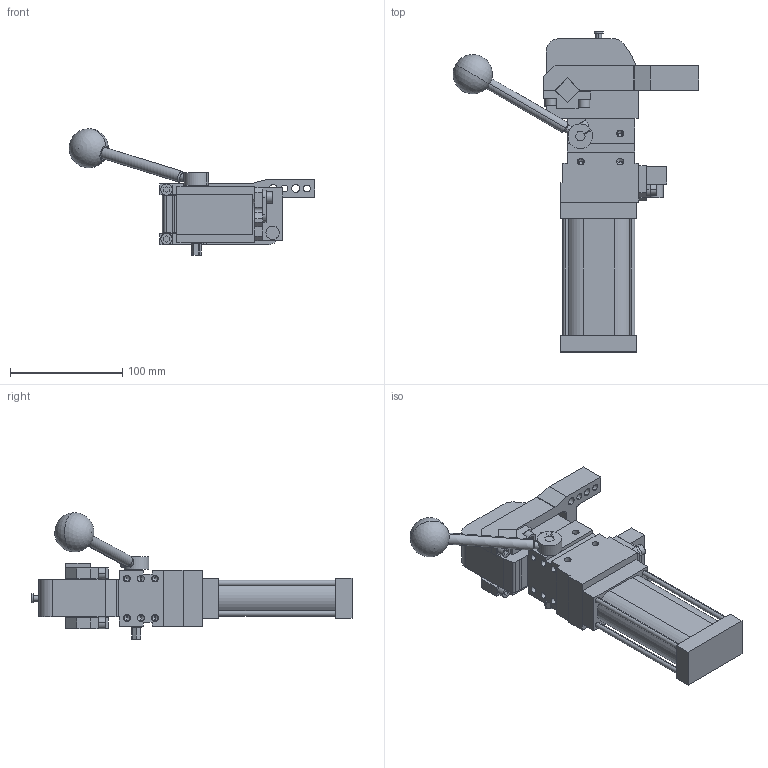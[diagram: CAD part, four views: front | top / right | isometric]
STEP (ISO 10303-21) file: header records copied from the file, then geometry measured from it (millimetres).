
FILE_DESCRIPTION (( 'STEP AP214' ), '1' );
FILE_NAME ('cplm40lav2ssi1g_19.STEP', '2021-05-25T12:21:49', ( '' ), ( '' ), 'SwSTEP 2.0', 'SolidWorks 2021', '' );
FILE_SCHEMA (( 'AUTOMOTIVE_DESIGN' ));
Length unit declared in the file: millimetre
Products named in the file (6): piastra_blocchetto_cpl40; comando_manuale_cplm_40; leva_v2d_cpl40; blocchetto_VEP_0_cpl40; meccanica_cplm40; cplm40lav2ssi1g_19
Assembly tree (5 placements, depth 2):
  cplm40lav2ssi1g_19
    meccanica_cplm40
    leva_v2d_cpl40
    blocchetto_VEP_0_cpl40
    piastra_blocchetto_cpl40
    comando_manuale_cplm_40
Bounding box: 218.62 x 285 x 112.66 mm (x, y, z)
Volume: 801141.7 mm3; surface area: 125252.2 mm2
Topology: 6 solids, 6 shells, 485 faces, 1243 edges, 785 vertices
Faces by surface type: plane 283, cylinder 154, cone 46, sphere 2
Entity records: 16007 total; most frequent: CARTESIAN_POINT 2589, DIRECTION 2542, ORIENTED_EDGE 2392, EDGE_CURVE 1196, AXIS2_PLACEMENT_3D 857, VECTOR 828, LINE 828, VERTEX_POINT 782
